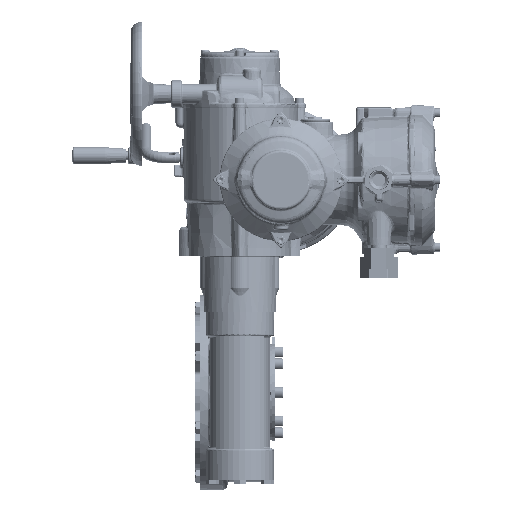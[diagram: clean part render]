
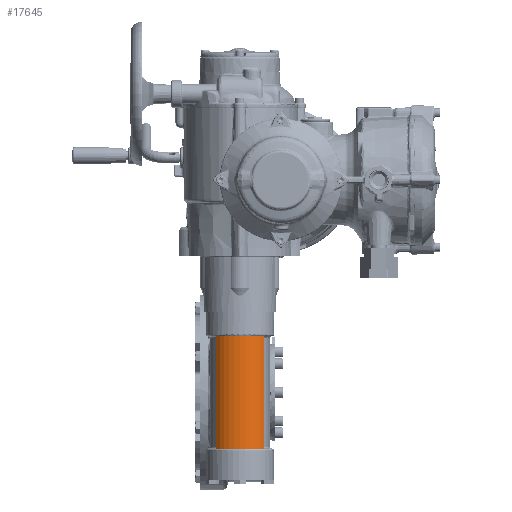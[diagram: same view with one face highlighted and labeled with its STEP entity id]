
A CAD part, left-side view. The second image highlights one B-rep face of the part: STEP entity #17645.
In plain terms, the highlighted cylindrical face has radius 47 mm (diameter 94 mm), a partial arc.
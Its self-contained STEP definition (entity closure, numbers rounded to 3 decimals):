
#17645 = ADVANCED_FACE( '', ( #37485 ), #37486, .T. );
#37485 = FACE_OUTER_BOUND( '', #272847, .T. );
#37486 = CYLINDRICAL_SURFACE( '', #272848, 47. );
#272847 = EDGE_LOOP( '', ( #398948, #398949, #398950, #398951 ) );
#272848 = AXIS2_PLACEMENT_3D( '', #398952, #398953, #398954 );
#398948 = ORIENTED_EDGE( '', *, *, #430217, .F. );
#398949 = ORIENTED_EDGE( '', *, *, #422733, .F. );
#398950 = ORIENTED_EDGE( '', *, *, #428833, .T. );
#398951 = ORIENTED_EDGE( '', *, *, #433277, .F. );
#398952 = CARTESIAN_POINT( '', ( 0., 0., 136.045 ) );
#398953 = DIRECTION( '', ( 0., 0., 1. ) );
#398954 = DIRECTION( '', ( 0., -1., 0. ) );
#422733 = EDGE_CURVE( '', #452456, #441213, #452458, .F. );
#428833 = EDGE_CURVE( '', #452456, #460874, #460876, .T. );
#430217 = EDGE_CURVE( '', #441213, #462590, #462591, .T. );
#433277 = EDGE_CURVE( '', #462590, #460874, #466198, .T. );
#441213 = VERTEX_POINT( '', #497870 );
#452456 = VERTEX_POINT( '', #557762 );
#452458 = CIRCLE( '', #557764, 47. );
#460874 = VERTEX_POINT( '', #605061 );
#460876 = LINE( '', #605080, #605081 );
#462590 = VERTEX_POINT( '', #615205 );
#462591 = LINE( '', #615206, #615207 );
#466198 = CIRCLE( '', #635668, 47. );
#497870 = CARTESIAN_POINT( '', ( -31.369, -35., -228.14 ) );
#557762 = CARTESIAN_POINT( '', ( -31.369, 35., -228.14 ) );
#557764 = AXIS2_PLACEMENT_3D( '', #656672, #656673, #656674 );
#605061 = CARTESIAN_POINT( '', ( -31.369, 35., -392.14 ) );
#605080 = CARTESIAN_POINT( '', ( -31.369, 35., 136.045 ) );
#605081 = VECTOR( '', #662463, 1000. );
#615205 = CARTESIAN_POINT( '', ( -31.369, -35., -392.14 ) );
#615206 = CARTESIAN_POINT( '', ( -31.369, -35., 136.045 ) );
#615207 = VECTOR( '', #663694, 1000. );
#635668 = AXIS2_PLACEMENT_3D( '', #666129, #666130, #666131 );
#656672 = CARTESIAN_POINT( '', ( 0., 0., -228.14 ) );
#656673 = DIRECTION( '', ( 0., 0., -1. ) );
#656674 = DIRECTION( '', ( 0., -1., 0. ) );
#662463 = DIRECTION( '', ( 0., 0., -1. ) );
#663694 = DIRECTION( '', ( 0., 0., -1. ) );
#666129 = CARTESIAN_POINT( '', ( 0., 0., -392.14 ) );
#666130 = DIRECTION( '', ( 0., 0., -1. ) );
#666131 = DIRECTION( '', ( 0., -1., 0. ) );
